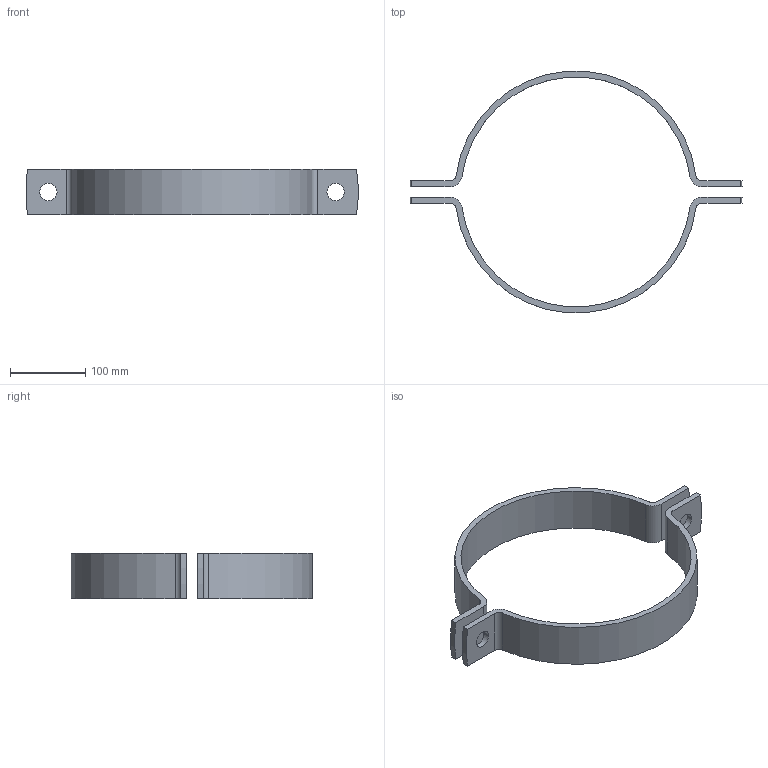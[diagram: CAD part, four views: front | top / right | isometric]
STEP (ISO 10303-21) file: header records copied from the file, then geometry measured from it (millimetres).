
FILE_DESCRIPTION (( 'STEP AP203' ), '1' );
FILE_NAME ('NW300-306 (DIN 3567).STEP', '2023-12-08T11:36:00', ( '' ), ( '' ), 'SwSTEP 2.0', 'SolidWorks 2023', '' );
FILE_SCHEMA (( 'CONFIG_CONTROL_DESIGN' ));
Length unit declared in the file: millimetre
Products named in the file (1): NW300-306 (DIN 3567)
Bounding box: 441.54 x 320.85 x 60 mm (x, y, z)
Volume: 553651.5 mm3; surface area: 161461.9 mm2
Topology: 2 solids, 2 shells, 36 faces, 96 edges, 64 vertices
Faces by surface type: cylinder 24, plane 12
Entity records: 1239 total; most frequent: DIRECTION 218, CARTESIAN_POINT 197, ORIENTED_EDGE 192, EDGE_CURVE 96, AXIS2_PLACEMENT_3D 85, VERTEX_POINT 64, LINE 48, CIRCLE 48
